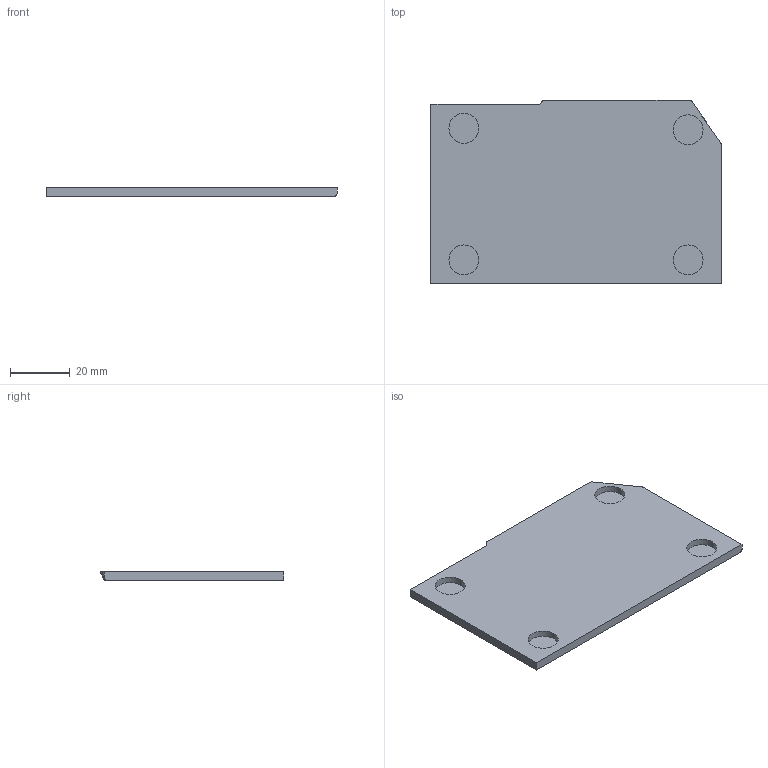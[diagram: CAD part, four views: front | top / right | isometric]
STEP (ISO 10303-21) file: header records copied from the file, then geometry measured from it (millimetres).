
FILE_DESCRIPTION (( 'STEP AP214' ), '1' );
FILE_NAME ('Wand_Rechts.STEP', '2025-11-07T15:57:32', ( '' ), ( '' ), 'SwSTEP 2.0', 'SolidWorks 2025', '' );
FILE_SCHEMA (( 'AUTOMOTIVE_DESIGN' ));
Length unit declared in the file: millimetre
Products named in the file (1): Wand_Rechts
Bounding box: 97 x 61.39 x 3 mm (x, y, z)
Volume: 16672.1 mm3; surface area: 12757.9 mm2
Topology: 1 solids, 1 shells, 32 faces, 68 edges, 42 vertices
Faces by surface type: cylinder 15, plane 12, sphere 3, bspline 1, torus 1
Entity records: 909 total; most frequent: CARTESIAN_POINT 180, DIRECTION 160, ORIENTED_EDGE 136, EDGE_CURVE 68, AXIS2_PLACEMENT_3D 64, VERTEX_POINT 42, EDGE_LOOP 36, VECTOR 32
